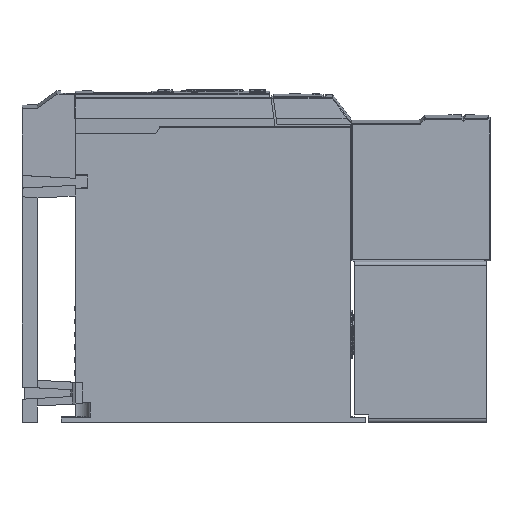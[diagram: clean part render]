
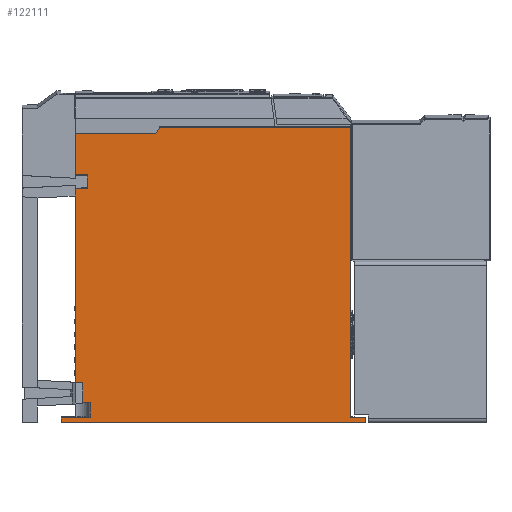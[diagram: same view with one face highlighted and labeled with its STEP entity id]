
A CAD part, left-side view. The second image highlights one B-rep face of the part: STEP entity #122111.
In plain terms, the highlighted planar face has unit normal (-1, 0, 0).
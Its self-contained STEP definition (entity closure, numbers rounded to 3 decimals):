
#89561=DIRECTION('',(0.,1.,0.));
#89562=VECTOR('',#89561,53.072);
#89563=CARTESIAN_POINT('',(-49.4,37.678,100.475));
#89564=LINE('',#89563,#89562);
#89568=DIRECTION('',(0.,0.5,-0.866));
#89569=VECTOR('',#89568,5.196);
#89570=CARTESIAN_POINT('',(-49.4,35.08,104.975));
#89571=LINE('',#89570,#89569);
#89575=DIRECTION('',(0.,-1.,0.));
#89576=VECTOR('',#89575,125.83);
#89577=CARTESIAN_POINT('',(-49.4,35.08,104.975));
#89578=LINE('',#89577,#89576);
#89582=DIRECTION('',(0.,0.,-1.));
#89583=VECTOR('',#89582,191.375);
#89584=CARTESIAN_POINT('',(-49.4,-90.75,104.975));
#89585=LINE('',#89584,#89583);
#89589=DIRECTION('',(0.,0.,1.));
#89590=VECTOR('',#89589,9.501);
#89591=CARTESIAN_POINT('',(-49.4,80.75,-85.901));
#89592=LINE('',#89591,#89590);
#89596=DIRECTION('',(0.,1.,0.));
#89597=VECTOR('',#89596,10.);
#89598=CARTESIAN_POINT('',(-49.4,80.75,-76.4));
#89599=LINE('',#89598,#89597);
#89603=DIRECTION('',(0.,0.,-1.));
#89604=VECTOR('',#89603,13.452);
#89605=CARTESIAN_POINT('',(-49.4,90.75,-62.948));
#89606=LINE('',#89605,#89604);
#89610=DIRECTION('',(0.,0.,1.));
#89611=VECTOR('',#89610,122.548);
#89612=CARTESIAN_POINT('',(-49.4,90.75,-62.948));
#89613=LINE('',#89612,#89611);
#89617=DIRECTION('',(0.,0.,-1.));
#89618=VECTOR('',#89617,4.9);
#89619=CARTESIAN_POINT('',(-49.4,90.75,64.5));
#89620=LINE('',#89619,#89618);
#89624=DIRECTION('',(0.,-1.,0.));
#89625=VECTOR('',#89624,8.);
#89626=CARTESIAN_POINT('',(-49.4,90.75,64.5));
#89627=LINE('',#89626,#89625);
#89631=CARTESIAN_POINT('',(-49.4,82.75,64.5));
#89632=CARTESIAN_POINT('',(-49.4,82.75,64.705));
#89633=CARTESIAN_POINT('',(-49.4,82.751,64.911));
#89634=CARTESIAN_POINT('',(-49.4,82.751,65.116));
#89639=DIRECTION('',(0.,0.,1.));
#89640=VECTOR('',#89639,7.767);
#89641=CARTESIAN_POINT('',(-49.4,82.751,65.116));
#89642=LINE('',#89641,#89640);
#89646=CARTESIAN_POINT('',(-49.4,82.751,72.884));
#89647=CARTESIAN_POINT('',(-49.4,82.751,73.089));
#89648=CARTESIAN_POINT('',(-49.4,82.75,73.295));
#89649=CARTESIAN_POINT('',(-49.4,82.75,73.5));
#89654=DIRECTION('',(0.,-1.,0.));
#89655=VECTOR('',#89654,8.);
#89656=CARTESIAN_POINT('',(-49.4,90.75,73.5));
#89657=LINE('',#89656,#89655);
#89661=DIRECTION('',(0.,0.,-1.));
#89662=VECTOR('',#89661,26.975);
#89663=CARTESIAN_POINT('',(-49.4,90.75,100.475));
#89664=LINE('',#89663,#89662);
#90627=DIRECTION('',(0.,1.,0.));
#90628=VECTOR('',#90627,9.25);
#90629=CARTESIAN_POINT('',(-49.4,-100.,-86.4));
#90630=LINE('',#90629,#90628);
#90681=DIRECTION('',(0.,1.,0.));
#90682=VECTOR('',#90681,18.748);
#90683=CARTESIAN_POINT('',(-49.4,81.252,-86.4));
#90684=LINE('',#90683,#90682);
#90791=DIRECTION('',(0.,-1.,0.));
#90792=VECTOR('',#90791,200.);
#90793=CARTESIAN_POINT('',(-49.4,100.,-89.4));
#90794=LINE('',#90793,#90792);
#91528=DIRECTION('',(0.,0.,1.));
#91529=VECTOR('',#91528,3.);
#91530=CARTESIAN_POINT('',(-49.4,-100.,-89.4));
#91531=LINE('',#91530,#91529);
#96555=CARTESIAN_POINT('',(-49.4,80.75,-85.901));
#96556=CARTESIAN_POINT('',(-49.4,80.75,-86.068));
#96557=CARTESIAN_POINT('',(-49.4,80.877,-86.274));
#96558=CARTESIAN_POINT('',(-49.4,81.085,-86.4));
#96559=CARTESIAN_POINT('',(-49.4,81.252,-86.4));
#100338=DIRECTION('',(0.,0.,1.));
#100339=VECTOR('',#100338,3.);
#100340=CARTESIAN_POINT('',(-49.4,100.,-89.4));
#100341=LINE('',#100340,#100339);
#100403=CARTESIAN_POINT('',(-49.4,-100.,-89.4));
#100404=CARTESIAN_POINT('',(-49.4,-100.,-86.4));
#100405=VERTEX_POINT('',#100403);
#100406=VERTEX_POINT('',#100404);
#100411=CARTESIAN_POINT('',(-49.4,100.,-89.4));
#100412=CARTESIAN_POINT('',(-49.4,100.,-86.4));
#100413=VERTEX_POINT('',#100411);
#100414=VERTEX_POINT('',#100412);
#100421=CARTESIAN_POINT('',(-49.4,-90.75,-86.4));
#100422=VERTEX_POINT('',#100421);
#100473=CARTESIAN_POINT('',(-49.4,80.75,-76.4));
#100475=VERTEX_POINT('',#100473);
#101483=CARTESIAN_POINT('',(-49.4,81.252,-86.4));
#101485=VERTEX_POINT('',#101483);
#101487=CARTESIAN_POINT('',(-49.4,80.75,-85.901));
#101489=VERTEX_POINT('',#101487);
#102755=CARTESIAN_POINT('',(-49.4,82.75,64.5));
#102756=VERTEX_POINT('',#102755);
#102757=CARTESIAN_POINT('',(-49.4,82.75,73.5));
#102758=VERTEX_POINT('',#102757);
#103645=CARTESIAN_POINT('',(-49.4,90.75,64.5));
#103646=CARTESIAN_POINT('',(-49.4,90.75,59.6));
#103647=VERTEX_POINT('',#103645);
#103648=VERTEX_POINT('',#103646);
#103649=CARTESIAN_POINT('',(-49.4,90.75,-62.948));
#103650=CARTESIAN_POINT('',(-49.4,90.75,-76.4));
#103651=VERTEX_POINT('',#103649);
#103652=VERTEX_POINT('',#103650);
#103806=CARTESIAN_POINT('',(-49.4,90.75,73.5));
#103808=VERTEX_POINT('',#103806);
#103826=CARTESIAN_POINT('',(-49.4,82.751,72.884));
#103828=VERTEX_POINT('',#103826);
#103836=VERTEX_POINT('',#89634);
#103976=CARTESIAN_POINT('',(-49.4,37.678,100.475));
#103977=CARTESIAN_POINT('',(-49.4,90.75,100.475));
#103978=VERTEX_POINT('',#103976);
#103979=VERTEX_POINT('',#103977);
#103982=CARTESIAN_POINT('',(-49.4,35.08,104.975));
#103983=VERTEX_POINT('',#103982);
#103985=CARTESIAN_POINT('',(-49.4,-90.75,104.975));
#103987=VERTEX_POINT('',#103985);
#122067=CARTESIAN_POINT('',(-49.4,90.75,-89.4));
#122068=DIRECTION('',(-1.,0.,0.));
#122069=DIRECTION('',(0.,-1.,0.));
#122070=AXIS2_PLACEMENT_3D('',#122067,#122068,#122069);
#122071=PLANE('',#122070);
#122073=ORIENTED_EDGE('',*,*,#122072,.F.);
#122075=ORIENTED_EDGE('',*,*,#122074,.F.);
#122077=ORIENTED_EDGE('',*,*,#122076,.T.);
#122078=ORIENTED_EDGE('',*,*,#111776,.T.);
#122080=ORIENTED_EDGE('',*,*,#122079,.F.);
#122082=ORIENTED_EDGE('',*,*,#122081,.F.);
#122084=ORIENTED_EDGE('',*,*,#122083,.F.);
#122086=ORIENTED_EDGE('',*,*,#122085,.T.);
#122088=ORIENTED_EDGE('',*,*,#122087,.F.);
#122090=ORIENTED_EDGE('',*,*,#122089,.F.);
#122092=ORIENTED_EDGE('',*,*,#122091,.T.);
#122094=ORIENTED_EDGE('',*,*,#122093,.T.);
#122095=ORIENTED_EDGE('',*,*,#121857,.F.);
#122096=ORIENTED_EDGE('',*,*,#120917,.T.);
#122097=ORIENTED_EDGE('',*,*,#121833,.F.);
#122099=ORIENTED_EDGE('',*,*,#122098,.T.);
#122101=ORIENTED_EDGE('',*,*,#122100,.T.);
#122103=ORIENTED_EDGE('',*,*,#122102,.T.);
#122105=ORIENTED_EDGE('',*,*,#122104,.T.);
#122107=ORIENTED_EDGE('',*,*,#122106,.F.);
#122108=ORIENTED_EDGE('',*,*,#122048,.F.);
#122109=EDGE_LOOP('',(#122073,#122075,#122077,#122078,#122080,#122082,#122084,
#122086,#122088,#122090,#122092,#122094,#122095,#122096,#122097,#122099,#122101,
#122103,#122105,#122107,#122108));
#122110=FACE_OUTER_BOUND('',#122109,.F.);
#122111=ADVANCED_FACE('',(#122110),#122071,.T.);
#89635=B_SPLINE_CURVE_WITH_KNOTS('',3,(#89631,#89632,#89633,#89634),
.UNSPECIFIED.,.F.,.F.,(4,4),(0.,1.),.UNSPECIFIED.);
#89650=B_SPLINE_CURVE_WITH_KNOTS('',3,(#89646,#89647,#89648,#89649),
.UNSPECIFIED.,.F.,.F.,(4,4),(0.,1.),.UNSPECIFIED.);
#96560=B_SPLINE_CURVE_WITH_KNOTS('',3,(#96555,#96556,#96557,#96558,#96559),
.UNSPECIFIED.,.F.,.F.,(4,1,4),(0.,0.5,1.),.UNSPECIFIED.);
#111776=EDGE_CURVE('',#103987,#100422,#89585,.T.);
#120917=EDGE_CURVE('',#103651,#103648,#89613,.T.);
#121833=EDGE_CURVE('',#103647,#103648,#89620,.T.);
#121857=EDGE_CURVE('',#103651,#103652,#89606,.T.);
#122048=EDGE_CURVE('',#103979,#103808,#89664,.T.);
#122072=EDGE_CURVE('',#103978,#103979,#89564,.T.);
#122074=EDGE_CURVE('',#103983,#103978,#89571,.T.);
#122076=EDGE_CURVE('',#103983,#103987,#89578,.T.);
#122079=EDGE_CURVE('',#100406,#100422,#90630,.T.);
#122081=EDGE_CURVE('',#100405,#100406,#91531,.T.);
#122083=EDGE_CURVE('',#100413,#100405,#90794,.T.);
#122085=EDGE_CURVE('',#100413,#100414,#100341,.T.);
#122087=EDGE_CURVE('',#101485,#100414,#90684,.T.);
#122089=EDGE_CURVE('',#101489,#101485,#96560,.T.);
#122091=EDGE_CURVE('',#101489,#100475,#89592,.T.);
#122093=EDGE_CURVE('',#100475,#103652,#89599,.T.);
#122098=EDGE_CURVE('',#103647,#102756,#89627,.T.);
#122100=EDGE_CURVE('',#102756,#103836,#89635,.T.);
#122102=EDGE_CURVE('',#103836,#103828,#89642,.T.);
#122104=EDGE_CURVE('',#103828,#102758,#89650,.T.);
#122106=EDGE_CURVE('',#103808,#102758,#89657,.T.);
